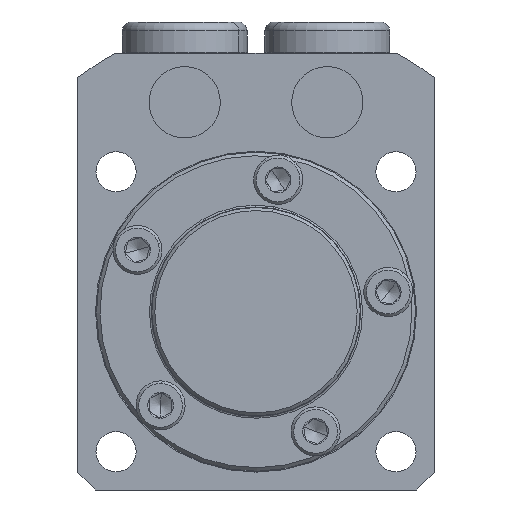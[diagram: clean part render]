
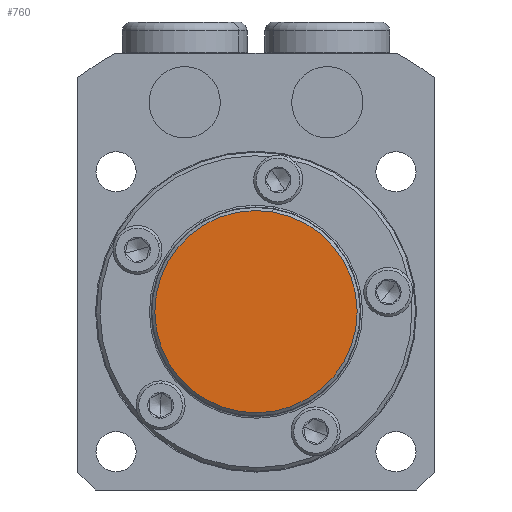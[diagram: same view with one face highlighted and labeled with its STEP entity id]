
A CAD part, front view. The second image highlights one B-rep face of the part: STEP entity #760.
In plain terms, the highlighted planar face has unit normal (0, -1, 0).
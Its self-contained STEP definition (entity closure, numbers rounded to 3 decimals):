
#634 = EDGE_CURVE ( 'NONE', #798, #801, #3903, .T. ) ;
#686 = EDGE_CURVE ( 'NONE', #801, #798, #3989, .T. ) ;
#760 = ADVANCED_FACE ( 'NONE', ( #4805 ), #4806, .T. ) ;
#798 = VERTEX_POINT ( 'NONE', #4952 ) ;
#801 = VERTEX_POINT ( 'NONE', #4969 ) ;
#1032 = EDGE_LOOP ( 'NONE', ( #7198, #7199 ) ) ;
#3903 = CIRCLE ( 'NONE', #3908, 11.35 ) ;
#3908 = AXIS2_PLACEMENT_3D ( 'NONE', #4285, #4286, #4287 ) ;
#3989 = CIRCLE ( 'NONE', #3992, 11.35 ) ;
#3992 = AXIS2_PLACEMENT_3D ( 'NONE', #4441, #4442, #4443 ) ;
#4092 = AXIS2_PLACEMENT_3D ( 'NONE', #4797, #4809, #4810 ) ;
#4285 = CARTESIAN_POINT ( 'NONE',  ( 0., -6., 0. ) ) ;
#4286 = DIRECTION ( 'NONE',  ( 0., -1., 0. ) ) ;
#4287 = DIRECTION ( 'NONE',  ( 0., 0., -1. ) ) ;
#4441 = CARTESIAN_POINT ( 'NONE',  ( 0., -6., 0. ) ) ;
#4442 = DIRECTION ( 'NONE',  ( 0., -1., 0. ) ) ;
#4443 = DIRECTION ( 'NONE',  ( 0., 0., -1. ) ) ;
#4797 = CARTESIAN_POINT ( 'NONE',  ( 0., -6., 0. ) ) ;
#4805 = FACE_OUTER_BOUND ( 'NONE', #1032, .T. ) ;
#4806 = PLANE ( 'NONE',  #4092 ) ;
#4809 = DIRECTION ( 'NONE',  ( 0., -1., 0. ) ) ;
#4810 = DIRECTION ( 'NONE',  ( 0., 0., -1. ) ) ;
#4952 = CARTESIAN_POINT ( 'NONE',  ( 0., -6., -11.35 ) ) ;
#4969 = CARTESIAN_POINT ( 'NONE',  ( 0., -6., 11.35 ) ) ;
#7198 = ORIENTED_EDGE ( 'NONE', *, *, #686, .T. ) ;
#7199 = ORIENTED_EDGE ( 'NONE', *, *, #634, .T. ) ;
